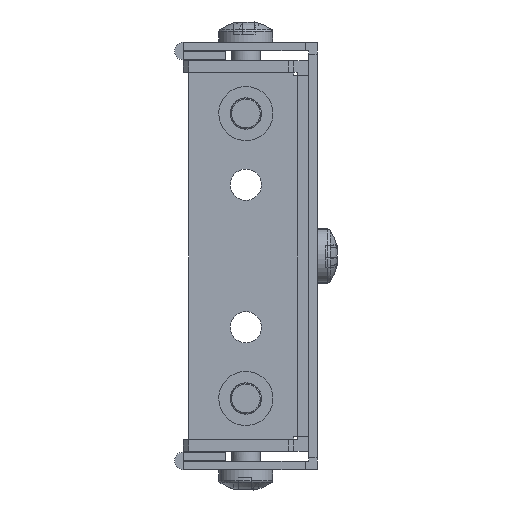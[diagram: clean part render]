
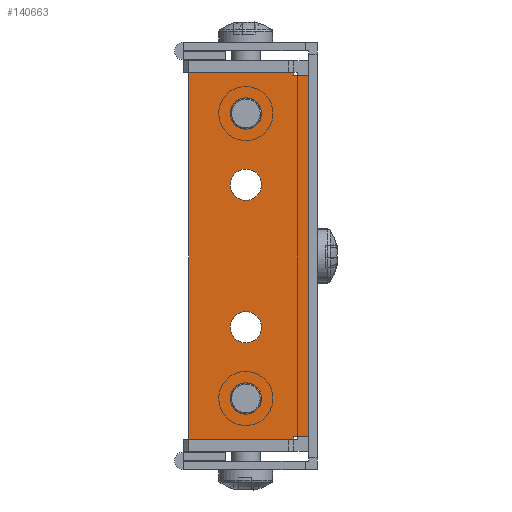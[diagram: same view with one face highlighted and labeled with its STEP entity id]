
A CAD part, front view. The second image highlights one B-rep face of the part: STEP entity #140663.
In plain terms, the highlighted planar face has unit normal (0, -1, 0).
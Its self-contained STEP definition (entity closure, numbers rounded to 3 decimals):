
#139627 = EDGE_CURVE('',#139628,#139630,#139632,.T.);
#139628 = VERTEX_POINT('',#139629);
#139629 = CARTESIAN_POINT('',(-354.1,-450.,-5.35));
#139630 = VERTEX_POINT('',#139631);
#139631 = CARTESIAN_POINT('',(-372.5,-450.,-5.35));
#139632 = LINE('',#139633,#139634);
#139633 = CARTESIAN_POINT('',(-354.1,-450.,-5.35));
#139634 = VECTOR('',#139635,1.);
#139635 = DIRECTION('',(-1.,0.,0.));
#139667 = EDGE_CURVE('',#139668,#139670,#139672,.T.);
#139668 = VERTEX_POINT('',#139669);
#139669 = CARTESIAN_POINT('',(-354.1,-450.,-69.15));
#139670 = VERTEX_POINT('',#139671);
#139671 = CARTESIAN_POINT('',(-354.1,-450.,-69.65));
#139672 = LINE('',#139673,#139674);
#139673 = CARTESIAN_POINT('',(-354.1,-450.,-69.15));
#139674 = VECTOR('',#139675,1.);
#139675 = DIRECTION('',(0.,0.,-1.));
#139707 = EDGE_CURVE('',#139670,#139708,#139710,.T.);
#139708 = VERTEX_POINT('',#139709);
#139709 = CARTESIAN_POINT('',(-372.5,-450.,-69.65));
#139710 = LINE('',#139711,#139712);
#139711 = CARTESIAN_POINT('',(-354.1,-450.,-69.65));
#139712 = VECTOR('',#139713,1.);
#139713 = DIRECTION('',(-1.,0.,0.));
#139745 = EDGE_CURVE('',#139708,#139630,#139746,.T.);
#139746 = LINE('',#139747,#139748);
#139747 = CARTESIAN_POINT('',(-372.5,-450.,-5.85));
#139748 = VECTOR('',#139749,1.);
#139749 = DIRECTION('',(0.,0.,1.));
#139761 = VERTEX_POINT('',#139762);
#139762 = CARTESIAN_POINT('',(-359.75,-450.,-12.5));
#139780 = VERTEX_POINT('',#139781);
#139781 = CARTESIAN_POINT('',(-365.25,-450.,-12.5));
#139787 = EDGE_CURVE('',#139780,#139761,#139788,.T.);
#139788 = CIRCLE('',#139789,2.75);
#139789 = AXIS2_PLACEMENT_3D('',#139790,#139791,#139792);
#139790 = CARTESIAN_POINT('',(-362.5,-450.,-12.5));
#139791 = DIRECTION('',(0.,1.,0.));
#139792 = DIRECTION('',(1.,0.,0.));
#139810 = EDGE_CURVE('',#139761,#139780,#139811,.T.);
#139811 = CIRCLE('',#139812,2.75);
#139812 = AXIS2_PLACEMENT_3D('',#139813,#139814,#139815);
#139813 = CARTESIAN_POINT('',(-362.5,-450.,-12.5));
#139814 = DIRECTION('',(0.,1.,0.));
#139815 = DIRECTION('',(1.,0.,0.));
#139827 = VERTEX_POINT('',#139828);
#139828 = CARTESIAN_POINT('',(-359.75,-450.,-50.));
#139846 = VERTEX_POINT('',#139847);
#139847 = CARTESIAN_POINT('',(-365.25,-450.,-50.));
#139853 = EDGE_CURVE('',#139846,#139827,#139854,.T.);
#139854 = CIRCLE('',#139855,2.75);
#139855 = AXIS2_PLACEMENT_3D('',#139856,#139857,#139858);
#139856 = CARTESIAN_POINT('',(-362.5,-450.,-50.));
#139857 = DIRECTION('',(0.,1.,0.));
#139858 = DIRECTION('',(-1.,0.,0.));
#139876 = EDGE_CURVE('',#139827,#139846,#139877,.T.);
#139877 = CIRCLE('',#139878,2.75);
#139878 = AXIS2_PLACEMENT_3D('',#139879,#139880,#139881);
#139879 = CARTESIAN_POINT('',(-362.5,-450.,-50.));
#139880 = DIRECTION('',(0.,1.,0.));
#139881 = DIRECTION('',(-1.,0.,0.));
#139893 = VERTEX_POINT('',#139894);
#139894 = CARTESIAN_POINT('',(-359.75,-450.,-62.5));
#139912 = VERTEX_POINT('',#139913);
#139913 = CARTESIAN_POINT('',(-365.25,-450.,-62.5));
#139919 = EDGE_CURVE('',#139912,#139893,#139920,.T.);
#139920 = CIRCLE('',#139921,2.75);
#139921 = AXIS2_PLACEMENT_3D('',#139922,#139923,#139924);
#139922 = CARTESIAN_POINT('',(-362.5,-450.,-62.5));
#139923 = DIRECTION('',(0.,1.,0.));
#139924 = DIRECTION('',(-1.,0.,0.));
#139942 = EDGE_CURVE('',#139893,#139912,#139943,.T.);
#139943 = CIRCLE('',#139944,2.75);
#139944 = AXIS2_PLACEMENT_3D('',#139945,#139946,#139947);
#139945 = CARTESIAN_POINT('',(-362.5,-450.,-62.5));
#139946 = DIRECTION('',(0.,1.,0.));
#139947 = DIRECTION('',(-1.,0.,0.));
#139959 = VERTEX_POINT('',#139960);
#139960 = CARTESIAN_POINT('',(-359.75,-450.,-25.));
#139978 = VERTEX_POINT('',#139979);
#139979 = CARTESIAN_POINT('',(-365.25,-450.,-25.));
#139985 = EDGE_CURVE('',#139978,#139959,#139986,.T.);
#139986 = CIRCLE('',#139987,2.75);
#139987 = AXIS2_PLACEMENT_3D('',#139988,#139989,#139990);
#139988 = CARTESIAN_POINT('',(-362.5,-450.,-25.));
#139989 = DIRECTION('',(0.,1.,0.));
#139990 = DIRECTION('',(1.,0.,0.));
#140008 = EDGE_CURVE('',#139959,#139978,#140009,.T.);
#140009 = CIRCLE('',#140010,2.75);
#140010 = AXIS2_PLACEMENT_3D('',#140011,#140012,#140013);
#140011 = CARTESIAN_POINT('',(-362.5,-450.,-25.));
#140012 = DIRECTION('',(0.,1.,0.));
#140013 = DIRECTION('',(1.,0.,0.));
#140024 = EDGE_CURVE('',#140025,#139628,#140027,.T.);
#140025 = VERTEX_POINT('',#140026);
#140026 = CARTESIAN_POINT('',(-354.1,-450.,-5.85));
#140027 = LINE('',#140028,#140029);
#140028 = CARTESIAN_POINT('',(-354.1,-450.,-5.85));
#140029 = VECTOR('',#140030,1.);
#140030 = DIRECTION('',(0.,0.,1.));
#140646 = VERTEX_POINT('',#140647);
#140647 = CARTESIAN_POINT('',(-351.5,-450.,-69.15));
#140653 = EDGE_CURVE('',#139668,#140646,#140654,.T.);
#140654 = LINE('',#140655,#140656);
#140655 = CARTESIAN_POINT('',(-351.5,-450.,-69.15));
#140656 = VECTOR('',#140657,1.);
#140657 = DIRECTION('',(1.,0.,0.));
#140663 = ADVANCED_FACE('',(#140664,#140668,#140672,#140676,#140680),
  #140702,.T.);
#140664 = FACE_BOUND('',#140665,.T.);
#140665 = EDGE_LOOP('',(#140666,#140667));
#140666 = ORIENTED_EDGE('',*,*,#140008,.T.);
#140667 = ORIENTED_EDGE('',*,*,#139985,.T.);
#140668 = FACE_BOUND('',#140669,.T.);
#140669 = EDGE_LOOP('',(#140670,#140671));
#140670 = ORIENTED_EDGE('',*,*,#139942,.T.);
#140671 = ORIENTED_EDGE('',*,*,#139919,.T.);
#140672 = FACE_BOUND('',#140673,.T.);
#140673 = EDGE_LOOP('',(#140674,#140675));
#140674 = ORIENTED_EDGE('',*,*,#139876,.T.);
#140675 = ORIENTED_EDGE('',*,*,#139853,.T.);
#140676 = FACE_BOUND('',#140677,.T.);
#140677 = EDGE_LOOP('',(#140678,#140679));
#140678 = ORIENTED_EDGE('',*,*,#139810,.T.);
#140679 = ORIENTED_EDGE('',*,*,#139787,.T.);
#140680 = FACE_BOUND('',#140681,.T.);
#140681 = EDGE_LOOP('',(#140682,#140683,#140684,#140685,#140686,#140694,
    #140700,#140701));
#140682 = ORIENTED_EDGE('',*,*,#139745,.F.);
#140683 = ORIENTED_EDGE('',*,*,#139707,.F.);
#140684 = ORIENTED_EDGE('',*,*,#139667,.F.);
#140685 = ORIENTED_EDGE('',*,*,#140653,.T.);
#140686 = ORIENTED_EDGE('',*,*,#140687,.T.);
#140687 = EDGE_CURVE('',#140646,#140688,#140690,.T.);
#140688 = VERTEX_POINT('',#140689);
#140689 = CARTESIAN_POINT('',(-351.5,-450.,-5.85));
#140690 = LINE('',#140691,#140692);
#140691 = CARTESIAN_POINT('',(-351.5,-450.,-37.5));
#140692 = VECTOR('',#140693,1.);
#140693 = DIRECTION('',(0.,0.,1.));
#140694 = ORIENTED_EDGE('',*,*,#140695,.F.);
#140695 = EDGE_CURVE('',#140025,#140688,#140696,.T.);
#140696 = LINE('',#140697,#140698);
#140697 = CARTESIAN_POINT('',(-351.5,-450.,-5.85));
#140698 = VECTOR('',#140699,1.);
#140699 = DIRECTION('',(1.,0.,0.));
#140700 = ORIENTED_EDGE('',*,*,#140024,.T.);
#140701 = ORIENTED_EDGE('',*,*,#139627,.T.);
#140702 = PLANE('',#140703);
#140703 = AXIS2_PLACEMENT_3D('',#140704,#140705,#140706);
#140704 = CARTESIAN_POINT('',(-351.5,-450.,-37.5));
#140705 = DIRECTION('',(0.,-1.,0.));
#140706 = DIRECTION('',(0.,0.,1.));
